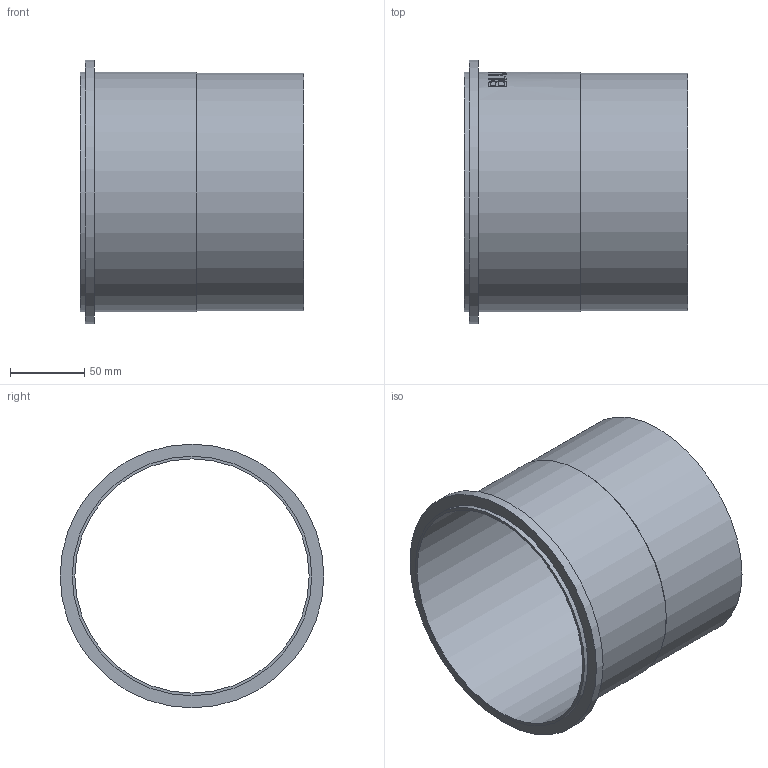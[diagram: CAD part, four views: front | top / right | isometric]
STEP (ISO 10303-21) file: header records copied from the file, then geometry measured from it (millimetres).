
FILE_DESCRIPTION((''),'2;1');
FILE_NAME('I:\WATTS\3D_CAD\3D_CAD_Models\Blucher_Drains\P_StraightPipe\WebsiteFiles\3D\STEP\P6-0.5-316.stp','2009-12-02T15:43:22',('menesek'),(''),'Autodesk Inventor 2010','Autodesk Inventor 2010','');
FILE_SCHEMA(('AUTOMOTIVE_DESIGN { 1 0 10303 214 1 1 1 1 }'));
Length unit declared in the file: inch
Products named in the file (1): P6-0.5-316
Bounding box: 150 x 177.04 x 177.04 mm (x, y, z)
Volume: 142039.5 mm3; surface area: 160465.8 mm2
Topology: 1 solids, 1 shells, 109 faces, 285 edges, 190 vertices
Faces by surface type: plane 59, bspline 34, cylinder 16
Full cylindrical faces by diameter (mm): 157.226 x1, 159.766 x1, 160.782 x2, 177.038 x1
Entity records: 13936 total; most frequent: CARTESIAN_POINT 11558, ORIENTED_EDGE 548, DIRECTION 356, EDGE_CURVE 274, VERTEX_POINT 186, EDGE_LOOP 128, AXIS2_PLACEMENT_3D 120, VECTOR 116
